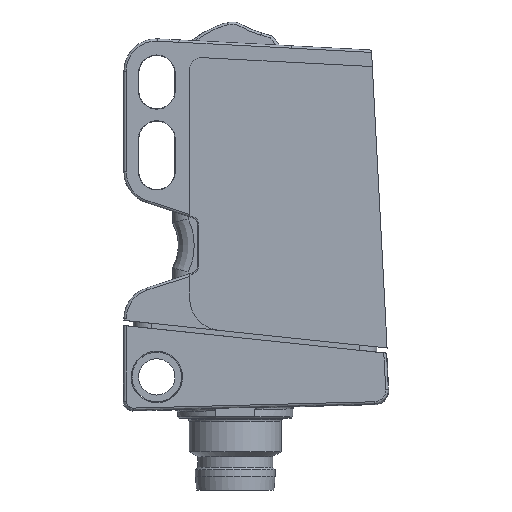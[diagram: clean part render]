
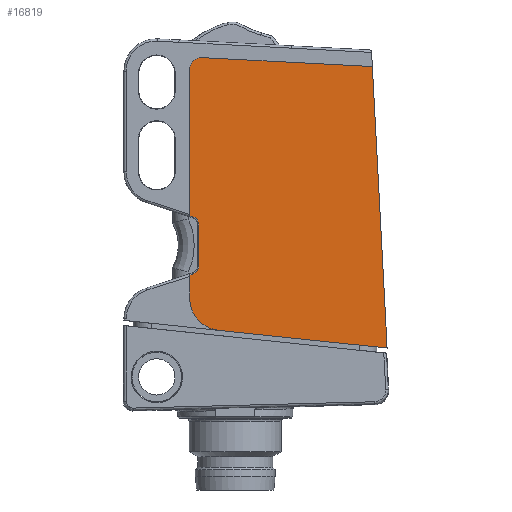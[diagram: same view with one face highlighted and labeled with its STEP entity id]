
A CAD part, front view. The second image highlights one B-rep face of the part: STEP entity #16819.
In plain terms, the highlighted planar face has unit normal (0, -1, 0).
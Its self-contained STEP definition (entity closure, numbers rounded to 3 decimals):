
#4004=DIRECTION('',(-0.995,0.,0.105));
#4005=VECTOR('',#4004,14.684);
#4006=CARTESIAN_POINT('',(19.96,-6.35,2.503));
#4007=LINE('',#4006,#4005);
#4104=DIRECTION('',(0.,0.,1.));
#4105=VECTOR('',#4104,1.995);
#4106=CARTESIAN_POINT('',(2.85,-6.35,6.822));
#4107=LINE('',#4106,#4105);
#4117=CARTESIAN_POINT('',(2.85,-6.35,8.817));
#4153=DIRECTION('',(0.,0.,1.));
#4154=VECTOR('',#4153,3.483);
#4155=CARTESIAN_POINT('',(3.65,-6.35,9.659));
#4156=LINE('',#4155,#4154);
#4198=DIRECTION('',(0.,0.,1.));
#4199=VECTOR('',#4198,12.691);
#4200=CARTESIAN_POINT('',(2.85,-6.35,13.983));
#4201=LINE('',#4200,#4199);
#5788=CARTESIAN_POINT('',(2.85,-6.35,9.659));
#5789=DIRECTION('',(0.,1.,0.));
#5790=DIRECTION('',(1.,0.,0.));
#5791=AXIS2_PLACEMENT_3D('',#5788,#5789,#5790);
#5796=CARTESIAN_POINT('',(2.85,-6.35,13.141));
#5797=DIRECTION('',(0.,1.,0.));
#5798=DIRECTION('',(0.309,0.,0.951));
#5799=AXIS2_PLACEMENT_3D('',#5796,#5797,#5798);
#5804=DIRECTION('',(0.951,0.,-0.309));
#5805=VECTOR('',#5804,0.26);
#5806=CARTESIAN_POINT('',(2.85,-6.35,13.983));
#5807=LINE('',#5806,#5805);
#5811=CARTESIAN_POINT('',(3.85,-6.35,26.674));
#5812=DIRECTION('',(0.,-1.,0.));
#5813=DIRECTION('',(0.,0.,1.));
#5814=AXIS2_PLACEMENT_3D('',#5811,#5812,#5813);
#5819=CARTESIAN_POINT('',(3.85,-6.35,26.674));
#5820=DIRECTION('',(0.,-1.,0.));
#5821=DIRECTION('',(0.052,0.,0.999));
#5822=AXIS2_PLACEMENT_3D('',#5819,#5820,#5821);
#5827=DIRECTION('',(-0.999,0.,0.052));
#5828=VECTOR('',#5827,14.8);
#5829=CARTESIAN_POINT('',(18.682,-6.35,26.898));
#5830=LINE('',#5829,#5828);
#5834=DIRECTION('',(-0.052,0.,0.999));
#5835=VECTOR('',#5834,24.429);
#5836=CARTESIAN_POINT('',(19.96,-6.35,2.503));
#5837=LINE('',#5836,#5835);
#5841=CARTESIAN_POINT('',(5.65,-6.35,6.822));
#5842=DIRECTION('',(0.,-1.,0.));
#5843=DIRECTION('',(-1.,0.,0.));
#5844=AXIS2_PLACEMENT_3D('',#5841,#5842,#5843);
#5849=DIRECTION('',(-0.951,0.,-0.309));
#5850=VECTOR('',#5849,0.26);
#5851=CARTESIAN_POINT('',(3.097,-6.35,8.898));
#5852=LINE('',#5851,#5850);
#11369=CARTESIAN_POINT('',(3.097,-6.35,13.902));
#11370=VERTEX_POINT('',#11369);
#11371=CARTESIAN_POINT('',(3.65,-6.35,13.141));
#11372=VERTEX_POINT('',#11371);
#11495=CARTESIAN_POINT('',(19.96,-6.35,2.503));
#11496=VERTEX_POINT('',#11495);
#11497=CARTESIAN_POINT('',(5.357,-6.35,4.037));
#11498=VERTEX_POINT('',#11497);
#11634=CARTESIAN_POINT('',(2.85,-6.35,6.822));
#11636=VERTEX_POINT('',#11634);
#11837=CARTESIAN_POINT('',(3.65,-6.35,9.659));
#11838=VERTEX_POINT('',#11837);
#11875=CARTESIAN_POINT('',(3.097,-6.35,8.898));
#11877=VERTEX_POINT('',#11875);
#11880=VERTEX_POINT('',#4117);
#11987=CARTESIAN_POINT('',(3.902,-6.35,27.673));
#11989=VERTEX_POINT('',#11987);
#11995=CARTESIAN_POINT('',(2.85,-6.35,26.674));
#11996=VERTEX_POINT('',#11995);
#11997=CARTESIAN_POINT('',(3.85,-6.35,27.674));
#11998=VERTEX_POINT('',#11997);
#12032=CARTESIAN_POINT('',(18.682,-6.35,26.898));
#12033=VERTEX_POINT('',#12032);
#12164=CARTESIAN_POINT('',(2.85,-6.35,13.983));
#12165=VERTEX_POINT('',#12164);
#16795=CARTESIAN_POINT('',(8.642,-6.35,15.609));
#16796=DIRECTION('',(0.,-1.,0.));
#16797=DIRECTION('',(1.,0.,0.));
#16798=AXIS2_PLACEMENT_3D('',#16795,#16796,#16797);
#16799=PLANE('',#16798);
#16800=ORIENTED_EDGE('',*,*,#15551,.F.);
#16801=ORIENTED_EDGE('',*,*,#15566,.T.);
#16802=ORIENTED_EDGE('',*,*,#15581,.F.);
#16803=ORIENTED_EDGE('',*,*,#15596,.F.);
#16804=ORIENTED_EDGE('',*,*,#15613,.T.);
#16806=ORIENTED_EDGE('',*,*,#16805,.F.);
#16808=ORIENTED_EDGE('',*,*,#16807,.F.);
#16810=ORIENTED_EDGE('',*,*,#16809,.F.);
#16811=ORIENTED_EDGE('',*,*,#16773,.F.);
#16812=ORIENTED_EDGE('',*,*,#15458,.T.);
#16814=ORIENTED_EDGE('',*,*,#16813,.F.);
#16815=ORIENTED_EDGE('',*,*,#15519,.T.);
#16816=ORIENTED_EDGE('',*,*,#15536,.F.);
#16817=EDGE_LOOP('',(#16800,#16801,#16802,#16803,#16804,#16806,#16808,#16810,
#16811,#16812,#16814,#16815,#16816));
#16818=FACE_OUTER_BOUND('',#16817,.F.);
#5792=CIRCLE('',#5791,0.8);
#5800=CIRCLE('',#5799,0.8);
#5815=CIRCLE('',#5814,1.);
#5823=CIRCLE('',#5822,1.);
#5845=CIRCLE('',#5844,2.8);
#15458=EDGE_CURVE('',#11496,#11498,#4007,.T.);
#15519=EDGE_CURVE('',#11636,#11880,#4107,.T.);
#15536=EDGE_CURVE('',#11877,#11880,#5852,.T.);
#15551=EDGE_CURVE('',#11838,#11877,#5792,.T.);
#15566=EDGE_CURVE('',#11838,#11372,#4156,.T.);
#15581=EDGE_CURVE('',#11370,#11372,#5800,.T.);
#15596=EDGE_CURVE('',#12165,#11370,#5807,.T.);
#15613=EDGE_CURVE('',#12165,#11996,#4201,.T.);
#16773=EDGE_CURVE('',#11496,#12033,#5837,.T.);
#16805=EDGE_CURVE('',#11998,#11996,#5815,.T.);
#16807=EDGE_CURVE('',#11989,#11998,#5823,.T.);
#16809=EDGE_CURVE('',#12033,#11989,#5830,.T.);
#16813=EDGE_CURVE('',#11636,#11498,#5845,.T.);
#16819=ADVANCED_FACE('',(#16818),#16799,.T.);
